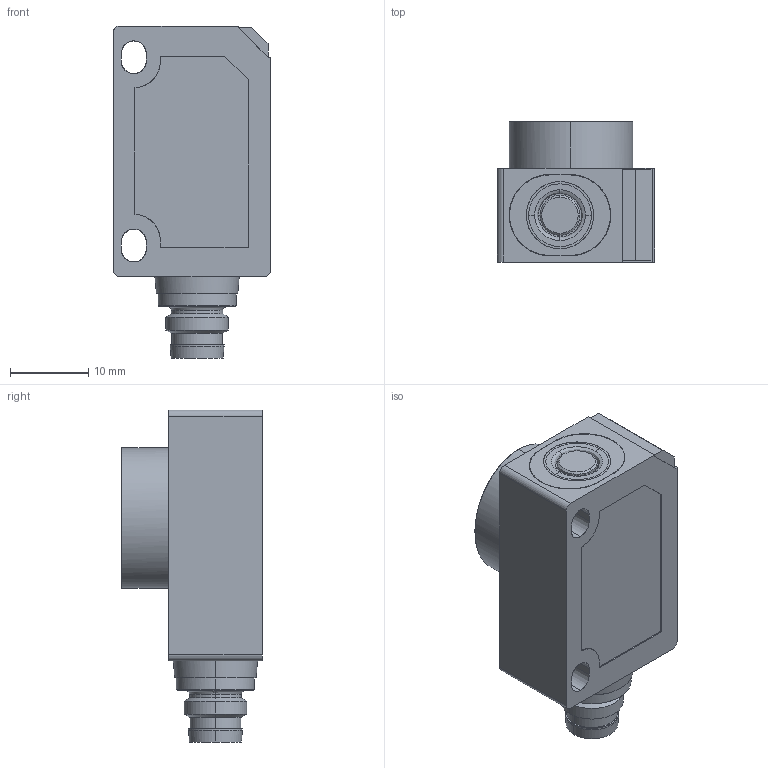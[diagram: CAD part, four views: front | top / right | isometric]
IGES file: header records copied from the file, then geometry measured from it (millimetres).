
Global section: file name: O:\Archiv\ARCHIV\153\3D-Model Kunde (DXF, IGS, SAT)\15300445_UT20_700.igs; native system: AutoCAD-17.2s (LMS Tech) (Microsoft Windows NT Version 5.1 (x86)); preprocessor: Autodesk IGES Translator Mechanical Desktop 2009 (Jun 25 2008) from Autodesk, Inc.; date: 20110412.100544; units: millimetre
Bounding box: 20.1 x 18 x 42.5 mm (x, y, z)
Surface area: 4838 mm2 (no closed solid volume)
Topology: 0 solids, 0 shells, 115 faces, 2046 edges, 2050 vertices
Faces by surface type: bspline 115
